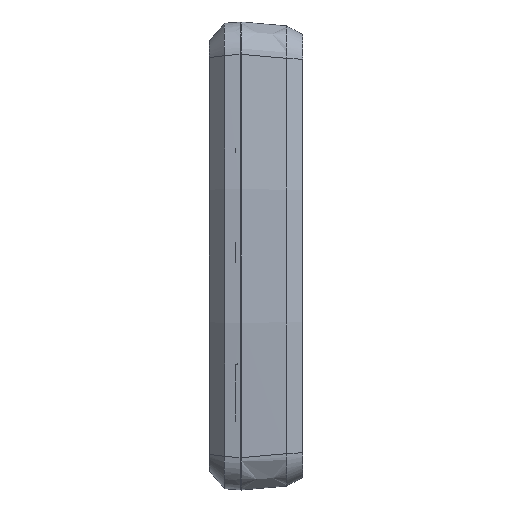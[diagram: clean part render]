
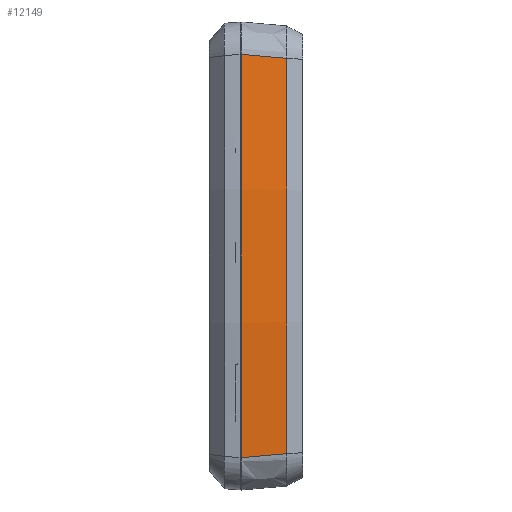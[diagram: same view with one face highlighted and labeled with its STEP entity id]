
A CAD part, left-side view. The second image highlights one B-rep face of the part: STEP entity #12149.
In plain terms, the highlighted conical face has half-angle 5 degrees and reference radius 650.525 mm.
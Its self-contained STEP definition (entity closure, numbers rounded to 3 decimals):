
#107 = CARTESIAN_POINT ( 'NONE',  ( -106.79, 0., -69.376 ) ) ;
#891 = AXIS2_PLACEMENT_3D ( 'NONE', #5280, #1540, #14648 ) ;
#949 = CARTESIAN_POINT ( 'NONE',  ( -106.79, 0., 69.376 ) ) ;
#1540 = DIRECTION ( 'NONE',  ( 0., 1., 0. ) ) ;
#1881 = CARTESIAN_POINT ( 'NONE',  ( -105.571, -15.521, -67.994 ) ) ;
#2143 = EDGE_LOOP ( 'NONE', ( #12063, #2832, #17083, #12058 ) ) ;
#2765 = VERTEX_POINT ( 'NONE', #11303 ) ;
#2788 = CARTESIAN_POINT ( 'NONE',  ( -105.978, -10.347, -68.454 ) ) ;
#2832 = ORIENTED_EDGE ( 'NONE', *, *, #10501, .T. ) ;
#3416 = CARTESIAN_POINT ( 'NONE',  ( 540.025, 0., 0. ) ) ;
#3549 = EDGE_CURVE ( 'NONE', #15239, #2765, #14132, .T. ) ;
#3562 = DIRECTION ( 'NONE',  ( 0., 1., 0. ) ) ;
#3816 = CIRCLE ( 'NONE', #7035, 649.167 ) ;
#4538 = CIRCLE ( 'NONE', #16190, 650.525 ) ;
#4776 = DIRECTION ( 'NONE',  ( 0., 0., 1. ) ) ;
#5280 = CARTESIAN_POINT ( 'NONE',  ( 540.025, 0., 0. ) ) ;
#6256 = EDGE_CURVE ( 'NONE', #16653, #2765, #4538, .T. ) ;
#6928 = FACE_OUTER_BOUND ( 'NONE', #2143, .T. ) ;
#7035 = AXIS2_PLACEMENT_3D ( 'NONE', #11561, #3562, #12908 ) ;
#7622 = CARTESIAN_POINT ( 'NONE',  ( -105.978, -10.347, 68.454 ) ) ;
#8432 = CARTESIAN_POINT ( 'NONE',  ( -106.384, -5.174, -68.915 ) ) ;
#8954 = CARTESIAN_POINT ( 'NONE',  ( -106.384, -5.174, 68.915 ) ) ;
#10501 = EDGE_CURVE ( 'NONE', #14283, #15239, #3816, .T. ) ;
#11303 = CARTESIAN_POINT ( 'NONE',  ( -106.79, 0., 69.376 ) ) ;
#11561 = CARTESIAN_POINT ( 'NONE',  ( 540.025, -15.521, 0. ) ) ;
#12058 = ORIENTED_EDGE ( 'NONE', *, *, #6256, .F. ) ;
#12063 = ORIENTED_EDGE ( 'NONE', *, *, #12630, .T. ) ;
#12149 = ADVANCED_FACE ( 'NONE', ( #6928 ), #15896, .T. ) ;
#12176 = CARTESIAN_POINT ( 'NONE',  ( -105.571, -15.521, -67.994 ) ) ;
#12630 = EDGE_CURVE ( 'NONE', #16653, #14283, #15644, .T. ) ;
#12779 = DIRECTION ( 'NONE',  ( 0., 1., 0. ) ) ;
#12908 = DIRECTION ( 'NONE',  ( 0., 0., 1. ) ) ;
#14132 = B_SPLINE_CURVE_WITH_KNOTS ( 'NONE', 3,
 ( #15629, #7622, #8954, #949 ),
 .UNSPECIFIED., .F., .F.,
 ( 4, 4 ),
 ( 0.006, 0.021 ),
 .UNSPECIFIED. ) ;
#14283 = VERTEX_POINT ( 'NONE', #1881 ) ;
#14448 = CARTESIAN_POINT ( 'NONE',  ( -106.79, 0., -69.376 ) ) ;
#14648 = DIRECTION ( 'NONE',  ( 0., 0., 1. ) ) ;
#14873 = CARTESIAN_POINT ( 'NONE',  ( -105.571, -15.521, 67.994 ) ) ;
#15239 = VERTEX_POINT ( 'NONE', #14873 ) ;
#15629 = CARTESIAN_POINT ( 'NONE',  ( -105.571, -15.521, 67.994 ) ) ;
#15644 = B_SPLINE_CURVE_WITH_KNOTS ( 'NONE', 3,
 ( #107, #8432, #2788, #12176 ),
 .UNSPECIFIED., .F., .F.,
 ( 4, 4 ),
 ( 0., 0.016 ),
 .UNSPECIFIED. ) ;
#15896 = CONICAL_SURFACE ( 'NONE', #891, 650.525, 0.087 ) ;
#16190 = AXIS2_PLACEMENT_3D ( 'NONE', #3416, #12779, #4776 ) ;
#16653 = VERTEX_POINT ( 'NONE', #14448 ) ;
#17083 = ORIENTED_EDGE ( 'NONE', *, *, #3549, .T. ) ;
